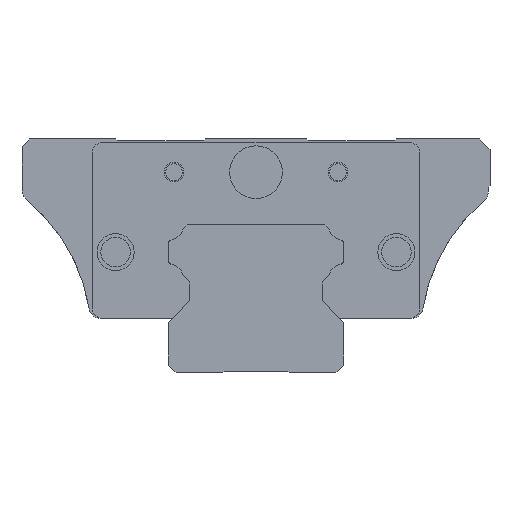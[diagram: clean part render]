
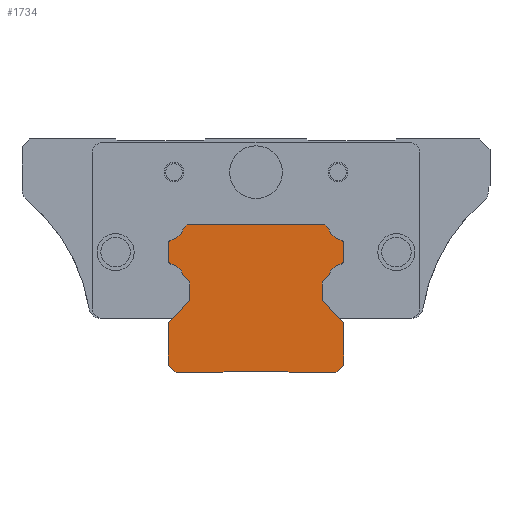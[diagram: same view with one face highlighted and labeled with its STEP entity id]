
A CAD part, left-side view. The second image highlights one B-rep face of the part: STEP entity #1734.
In plain terms, the highlighted planar face has unit normal (-1, 0, 0).
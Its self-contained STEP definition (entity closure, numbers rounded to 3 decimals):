
#758=CARTESIAN_POINT('',(0.0,-22.5,13.));
#759=VERTEX_POINT('',#758);
#766=CARTESIAN_POINT('',(0.0,-22.5,2.));
#767=VERTEX_POINT('',#766);
#768=CARTESIAN_POINT('',(0.0,-22.5,2.));
#769=DIRECTION('',(0.0,0.0,1.0));
#770=VECTOR('',#769,11.);
#771=LINE('',#768,#770);
#772=EDGE_CURVE('',#767,#759,#771,.T.);
#796=CARTESIAN_POINT('',(0.0,-17.,18.5));
#797=VERTEX_POINT('',#796);
#804=CARTESIAN_POINT('',(0.0,-22.5,13.));
#805=DIRECTION('',(0.0,0.707,0.707));
#806=VECTOR('',#805,7.778);
#807=LINE('',#804,#806);
#808=EDGE_CURVE('',#759,#797,#807,.T.);
#827=CARTESIAN_POINT('',(0.0,-17.,23.35));
#828=VERTEX_POINT('',#827);
#835=CARTESIAN_POINT('',(0.0,-17.,18.5));
#836=DIRECTION('',(0.0,0.0,1.0));
#837=VECTOR('',#836,4.85);
#838=LINE('',#835,#837);
#839=EDGE_CURVE('',#797,#828,#838,.T.);
#858=CARTESIAN_POINT('',(0.0,-18.638,24.988));
#859=VERTEX_POINT('',#858);
#866=CARTESIAN_POINT('',(0.0,-17.,23.35));
#867=DIRECTION('',(0.0,-0.707,0.707));
#868=VECTOR('',#867,2.316);
#869=LINE('',#866,#868);
#870=EDGE_CURVE('',#828,#859,#869,.T.);
#890=CARTESIAN_POINT('',(0.0,-21.813,27.941));
#891=VERTEX_POINT('',#890);
#898=CARTESIAN_POINT('',(0.0,-22.617,23.893));
#899=DIRECTION('',(1.0,0.0,0.0));
#900=DIRECTION('',(0.0,0.964,0.265));
#901=AXIS2_PLACEMENT_3D('',#898,#899,#900);
#902=CIRCLE('',#901,4.127);
#903=EDGE_CURVE('',#859,#891,#902,.T.);
#923=CARTESIAN_POINT('',(0.0,-22.5,28.775));
#924=VERTEX_POINT('',#923);
#931=CARTESIAN_POINT('',(0.0,-21.65,28.775));
#932=DIRECTION('',(-1.0,0.0,0.0));
#933=DIRECTION('',(0.0,1.0,0.0));
#934=AXIS2_PLACEMENT_3D('',#931,#932,#933);
#935=CIRCLE('',#934,0.85);
#936=EDGE_CURVE('',#891,#924,#935,.T.);
#955=CARTESIAN_POINT('',(0.0,-22.5,33.225));
#956=VERTEX_POINT('',#955);
#963=CARTESIAN_POINT('',(0.0,-22.5,28.775));
#964=DIRECTION('',(0.0,0.0,1.0));
#965=VECTOR('',#964,4.45);
#966=LINE('',#963,#965);
#967=EDGE_CURVE('',#924,#956,#966,.T.);
#987=CARTESIAN_POINT('',(0.0,-21.813,34.059));
#988=VERTEX_POINT('',#987);
#995=CARTESIAN_POINT('',(0.0,-21.65,33.225));
#996=DIRECTION('',(-1.0,0.0,0.0));
#997=DIRECTION('',(0.0,0.191,-0.982));
#998=AXIS2_PLACEMENT_3D('',#995,#996,#997);
#999=CIRCLE('',#998,0.85);
#1000=EDGE_CURVE('',#956,#988,#999,.T.);
#1020=CARTESIAN_POINT('',(0.0,-18.638,37.012));
#1021=VERTEX_POINT('',#1020);
#1028=CARTESIAN_POINT('',(0.0,-22.617,38.107));
#1029=DIRECTION('',(1.,0.0,0.0));
#1030=DIRECTION('',(0.0,0.195,-0.981));
#1031=AXIS2_PLACEMENT_3D('',#1028,#1029,#1030);
#1032=CIRCLE('',#1031,4.127);
#1033=EDGE_CURVE('',#988,#1021,#1032,.T.);
#1052=CARTESIAN_POINT('',(0.0,-17.65,38.));
#1053=VERTEX_POINT('',#1052);
#1060=CARTESIAN_POINT('',(0.0,-18.638,37.012));
#1061=DIRECTION('',(0.0,0.707,0.707));
#1062=VECTOR('',#1061,1.397);
#1063=LINE('',#1060,#1062);
#1064=EDGE_CURVE('',#1021,#1053,#1063,.T.);
#1083=CARTESIAN_POINT('',(0.0,17.65,38.));
#1084=VERTEX_POINT('',#1083);
#1091=CARTESIAN_POINT('',(0.0,-17.65,38.));
#1092=DIRECTION('',(0.0,1.0,0.0));
#1093=VECTOR('',#1092,35.3);
#1094=LINE('',#1091,#1093);
#1095=EDGE_CURVE('',#1053,#1084,#1094,.T.);
#1132=CARTESIAN_POINT('',(0.0,18.638,37.012));
#1133=VERTEX_POINT('',#1132);
#1140=CARTESIAN_POINT('',(0.0,17.65,38.));
#1141=DIRECTION('',(0.0,0.707,-0.707));
#1142=VECTOR('',#1141,1.397);
#1143=LINE('',#1140,#1142);
#1144=EDGE_CURVE('',#1084,#1133,#1143,.T.);
#1164=CARTESIAN_POINT('',(0.0,21.813,34.059));
#1165=VERTEX_POINT('',#1164);
#1172=CARTESIAN_POINT('',(0.0,22.617,38.107));
#1173=DIRECTION('',(1.0,0.0,0.0));
#1174=DIRECTION('',(0.0,-0.964,-0.265));
#1175=AXIS2_PLACEMENT_3D('',#1172,#1173,#1174);
#1176=CIRCLE('',#1175,4.127);
#1177=EDGE_CURVE('',#1133,#1165,#1176,.T.);
#1197=CARTESIAN_POINT('',(0.0,22.5,33.225));
#1198=VERTEX_POINT('',#1197);
#1205=CARTESIAN_POINT('',(0.0,21.65,33.225));
#1206=DIRECTION('',(-1.0,0.0,0.0));
#1207=DIRECTION('',(0.0,-1.0,0.0));
#1208=AXIS2_PLACEMENT_3D('',#1205,#1206,#1207);
#1209=CIRCLE('',#1208,0.85);
#1210=EDGE_CURVE('',#1165,#1198,#1209,.T.);
#1229=CARTESIAN_POINT('',(0.0,22.5,28.775));
#1230=VERTEX_POINT('',#1229);
#1237=CARTESIAN_POINT('',(0.0,22.5,33.225));
#1238=DIRECTION('',(0.0,0.0,-1.0));
#1239=VECTOR('',#1238,4.45);
#1240=LINE('',#1237,#1239);
#1241=EDGE_CURVE('',#1198,#1230,#1240,.T.);
#1261=CARTESIAN_POINT('',(0.0,21.813,27.941));
#1262=VERTEX_POINT('',#1261);
#1269=CARTESIAN_POINT('',(0.0,21.65,28.775));
#1270=DIRECTION('',(-1.,0.0,0.0));
#1271=DIRECTION('',(0.0,-0.191,0.982));
#1272=AXIS2_PLACEMENT_3D('',#1269,#1270,#1271);
#1273=CIRCLE('',#1272,0.85);
#1274=EDGE_CURVE('',#1230,#1262,#1273,.T.);
#1294=CARTESIAN_POINT('',(0.0,18.638,24.988));
#1295=VERTEX_POINT('',#1294);
#1302=CARTESIAN_POINT('',(0.0,22.617,23.893));
#1303=DIRECTION('',(1.,0.0,0.0));
#1304=DIRECTION('',(0.0,-0.195,0.981));
#1305=AXIS2_PLACEMENT_3D('',#1302,#1303,#1304);
#1306=CIRCLE('',#1305,4.127);
#1307=EDGE_CURVE('',#1262,#1295,#1306,.T.);
#1326=CARTESIAN_POINT('',(0.0,17.,23.35));
#1327=VERTEX_POINT('',#1326);
#1334=CARTESIAN_POINT('',(0.0,18.638,24.988));
#1335=DIRECTION('',(0.0,-0.707,-0.707));
#1336=VECTOR('',#1335,2.316);
#1337=LINE('',#1334,#1336);
#1338=EDGE_CURVE('',#1295,#1327,#1337,.T.);
#1357=CARTESIAN_POINT('',(0.0,17.,18.5));
#1358=VERTEX_POINT('',#1357);
#1365=CARTESIAN_POINT('',(0.0,17.,23.35));
#1366=DIRECTION('',(0.0,0.0,-1.0));
#1367=VECTOR('',#1366,4.85);
#1368=LINE('',#1365,#1367);
#1369=EDGE_CURVE('',#1327,#1358,#1368,.T.);
#1388=CARTESIAN_POINT('',(0.0,22.5,13.));
#1389=VERTEX_POINT('',#1388);
#1396=CARTESIAN_POINT('',(0.0,17.,18.5));
#1397=DIRECTION('',(0.0,0.707,-0.707));
#1398=VECTOR('',#1397,7.778);
#1399=LINE('',#1396,#1398);
#1400=EDGE_CURVE('',#1358,#1389,#1399,.T.);
#1419=CARTESIAN_POINT('',(0.0,22.5,2.));
#1420=VERTEX_POINT('',#1419);
#1427=CARTESIAN_POINT('',(0.0,22.5,13.));
#1428=DIRECTION('',(0.0,0.0,-1.0));
#1429=VECTOR('',#1428,11.);
#1430=LINE('',#1427,#1429);
#1431=EDGE_CURVE('',#1389,#1420,#1430,.T.);
#1450=CARTESIAN_POINT('',(0.0,20.5,0.));
#1451=VERTEX_POINT('',#1450);
#1458=CARTESIAN_POINT('',(0.0,22.5,2.));
#1459=DIRECTION('',(0.0,-0.707,-0.707));
#1460=VECTOR('',#1459,2.828);
#1461=LINE('',#1458,#1460);
#1462=EDGE_CURVE('',#1420,#1451,#1461,.T.);
#1481=CARTESIAN_POINT('',(0.0,8.5,0.));
#1482=VERTEX_POINT('',#1481);
#1489=CARTESIAN_POINT('',(0.0,20.5,0.));
#1490=DIRECTION('',(0.0,-1.0,0.0));
#1491=VECTOR('',#1490,12.);
#1492=LINE('',#1489,#1491);
#1493=EDGE_CURVE('',#1451,#1482,#1492,.T.);
#1512=CARTESIAN_POINT('',(0.0,8.0,0.5));
#1513=VERTEX_POINT('',#1512);
#1520=CARTESIAN_POINT('',(0.0,8.5,0.));
#1521=DIRECTION('',(0.0,-0.707,0.707));
#1522=VECTOR('',#1521,0.707);
#1523=LINE('',#1520,#1522);
#1524=EDGE_CURVE('',#1482,#1513,#1523,.T.);
#1543=CARTESIAN_POINT('',(0.0,-8.0,0.5));
#1544=VERTEX_POINT('',#1543);
#1551=CARTESIAN_POINT('',(0.0,8.0,0.5));
#1552=DIRECTION('',(0.0,-1.0,0.0));
#1553=VECTOR('',#1552,16.0);
#1554=LINE('',#1551,#1553);
#1555=EDGE_CURVE('',#1513,#1544,#1554,.T.);
#1592=CARTESIAN_POINT('',(0.0,-8.5,0.));
#1593=VERTEX_POINT('',#1592);
#1600=CARTESIAN_POINT('',(0.0,-8.0,0.5));
#1601=DIRECTION('',(0.0,-0.707,-0.707));
#1602=VECTOR('',#1601,0.707);
#1603=LINE('',#1600,#1602);
#1604=EDGE_CURVE('',#1544,#1593,#1603,.T.);
#1623=CARTESIAN_POINT('',(0.0,-20.5,0.));
#1624=VERTEX_POINT('',#1623);
#1631=CARTESIAN_POINT('',(0.0,-8.5,0.));
#1632=DIRECTION('',(0.0,-1.0,0.0));
#1633=VECTOR('',#1632,12.);
#1634=LINE('',#1631,#1633);
#1635=EDGE_CURVE('',#1593,#1624,#1634,.T.);
#1653=CARTESIAN_POINT('',(0.0,-20.5,0.));
#1654=DIRECTION('',(0.0,-0.707,0.707));
#1655=VECTOR('',#1654,2.828);
#1656=LINE('',#1653,#1655);
#1657=EDGE_CURVE('',#1624,#767,#1656,.T.);
#1699=CARTESIAN_POINT('',(0.0,0.,18.783));
#1700=DIRECTION('',(1.0,0.0,0.0));
#1701=DIRECTION('',(0.0,0.0,-1.0));
#1702=AXIS2_PLACEMENT_3D('',#1699,#1700,#1701);
#1703=PLANE('',#1702);
#1704=ORIENTED_EDGE('',*,*,#1657,.T.);
#1705=ORIENTED_EDGE('',*,*,#772,.T.);
#1706=ORIENTED_EDGE('',*,*,#808,.T.);
#1707=ORIENTED_EDGE('',*,*,#839,.T.);
#1708=ORIENTED_EDGE('',*,*,#870,.T.);
#1709=ORIENTED_EDGE('',*,*,#903,.T.);
#1710=ORIENTED_EDGE('',*,*,#936,.T.);
#1711=ORIENTED_EDGE('',*,*,#967,.T.);
#1712=ORIENTED_EDGE('',*,*,#1000,.T.);
#1713=ORIENTED_EDGE('',*,*,#1033,.T.);
#1714=ORIENTED_EDGE('',*,*,#1064,.T.);
#1715=ORIENTED_EDGE('',*,*,#1095,.T.);
#1716=ORIENTED_EDGE('',*,*,#1144,.T.);
#1717=ORIENTED_EDGE('',*,*,#1177,.T.);
#1718=ORIENTED_EDGE('',*,*,#1210,.T.);
#1719=ORIENTED_EDGE('',*,*,#1241,.T.);
#1720=ORIENTED_EDGE('',*,*,#1274,.T.);
#1721=ORIENTED_EDGE('',*,*,#1307,.T.);
#1722=ORIENTED_EDGE('',*,*,#1338,.T.);
#1723=ORIENTED_EDGE('',*,*,#1369,.T.);
#1724=ORIENTED_EDGE('',*,*,#1400,.T.);
#1725=ORIENTED_EDGE('',*,*,#1431,.T.);
#1726=ORIENTED_EDGE('',*,*,#1462,.T.);
#1727=ORIENTED_EDGE('',*,*,#1493,.T.);
#1728=ORIENTED_EDGE('',*,*,#1524,.T.);
#1729=ORIENTED_EDGE('',*,*,#1555,.T.);
#1730=ORIENTED_EDGE('',*,*,#1604,.T.);
#1731=ORIENTED_EDGE('',*,*,#1635,.T.);
#1732=EDGE_LOOP('',(#1704,#1705,#1706,#1707,#1708,#1709,#1710,#1711,#1712,#1713,#1714,#1715,#1716,#1717,#1718,#1719,#1720,#1721,#1722,#1723,#1724,#1725,#1726,#1727,#1728,#1729,#1730,#1731));
#1733=FACE_OUTER_BOUND('',#1732,.T.);
#1734=ADVANCED_FACE('',(#1733),#1703,.F.);
